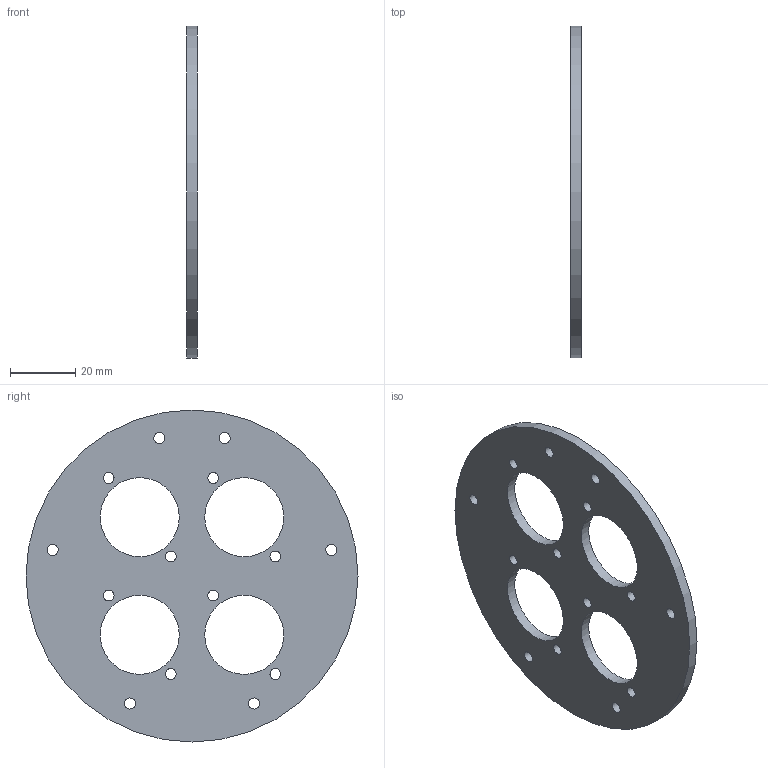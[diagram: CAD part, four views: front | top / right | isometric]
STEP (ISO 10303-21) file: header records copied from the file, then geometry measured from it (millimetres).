
FILE_DESCRIPTION(('Open CASCADE Model'),'2;1');
FILE_NAME('Open CASCADE Shape Model','2026-11-20T22:44:43',('Author'),( 'Open CASCADE'),'Open CASCADE STEP processor 7.8','Open CASCADE 7.8' ,'Unknown');
FILE_SCHEMA(('AUTOMOTIVE_DESIGN { 1 0 10303 214 1 1 1 1 }'));
Length unit declared in the file: millimetre
Products named in the file (1): Open CASCADE STEP translator 7.8 2
Bounding box: 3.17 x 101.6 x 101.6 mm (x, y, z)
Volume: 19509 mm3; surface area: 14734.9 mm2
Topology: 1 solids, 1 shells, 21 faces, 57 edges, 38 vertices
Faces by surface type: cylinder 19, plane 2
Full cylindrical faces by diameter (mm): 3.3 x8, 3.4 x6, 24.2 x4, 101.6 x1
Entity records: 1512 total; most frequent: DIRECTION 253, CARTESIAN_POINT 231, ORIENTED_EDGE 114, PCURVE 114, DEFINITIONAL_REPRESENTATION 114, LINE 95, VECTOR 95, CIRCLE 76
